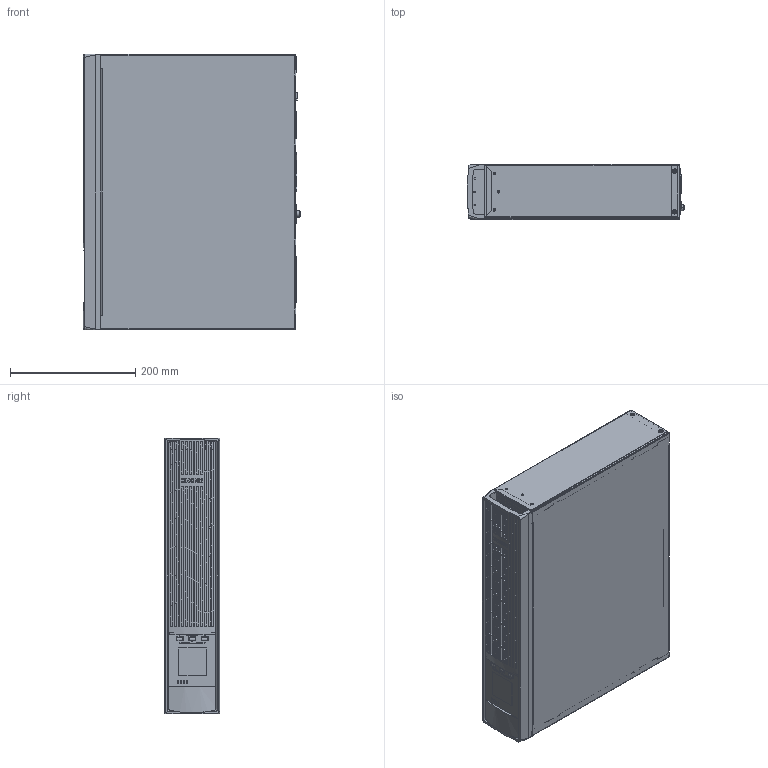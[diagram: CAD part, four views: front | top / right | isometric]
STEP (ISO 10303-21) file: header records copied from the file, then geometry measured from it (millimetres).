
FILE_DESCRIPTION (( 'STEP AP203' ), '1' );
FILE_NAME ('INFORPRO1000IN.STEP', '2025-04-28T11:50:47', ( '' ), ( '' ), 'SwSTEP 2.0', 'SolidWorks 2022', '' );
FILE_SCHEMA (( 'CONFIG_CONTROL_DESIGN' ));
Products named in the file (1): INFORPRO1000IN
Bounding box: 347.11 x 88.5 x 440 mm (x, y, z)
Surface area: 1647407 mm2 (no closed solid volume)
Topology: 0 solids, 85 shells, 6336 faces, 17256 edges, 10989 vertices
Faces by surface type: plane 3955, cylinder 1546, bspline 638, torus 106, cone 59, sphere 32
Entity records: 263764 total; most frequent: CARTESIAN_POINT 115249, ORIENTED_EDGE 34352, DIRECTION 24436, EDGE_CURVE 17228, VERTEX_POINT 10987, VECTOR 9332, LINE 9332, AXIS2_PLACEMENT_3D 7552
